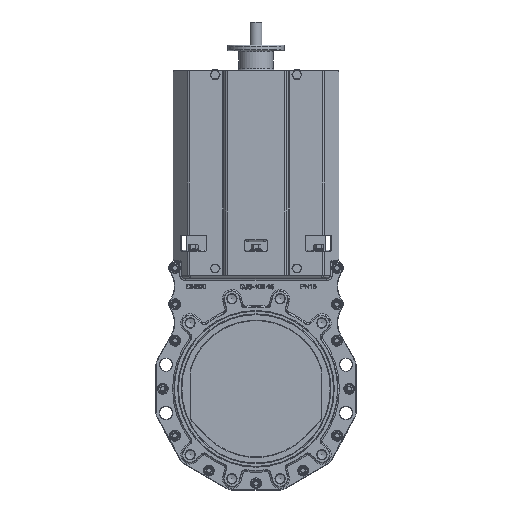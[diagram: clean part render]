
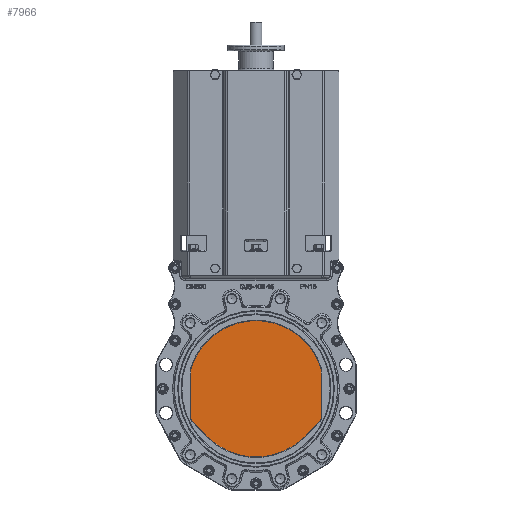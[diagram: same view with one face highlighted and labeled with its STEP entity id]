
A CAD part, top view. The second image highlights one B-rep face of the part: STEP entity #7966.
In plain terms, the highlighted planar face has unit normal (0, 0, 1).
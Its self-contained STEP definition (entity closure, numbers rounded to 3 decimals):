
#5312=CIRCLE('',#43407,10.);
#5313=CIRCLE('',#43409,150.);
#5314=CIRCLE('',#43411,10.);
#5316=CIRCLE('',#43415,10.);
#5318=CIRCLE('',#43419,150.);
#5320=CIRCLE('',#43423,10.);
#7966=ADVANCED_FACE('',(#11502),#9851,.T.);
#9851=PLANE('',#44365);
#11502=FACE_OUTER_BOUND('',#13886,.T.);
#13886=EDGE_LOOP('',(#21480,#21481,#21482,#21483,#21484,#21485,#21486,#21487,
#21488,#21489));
#21480=ORIENTED_EDGE('',*,*,#33020,.F.);
#21481=ORIENTED_EDGE('',*,*,#33023,.F.);
#21482=ORIENTED_EDGE('',*,*,#33025,.F.);
#21483=ORIENTED_EDGE('',*,*,#33028,.F.);
#21484=ORIENTED_EDGE('',*,*,#33031,.F.);
#21485=ORIENTED_EDGE('',*,*,#33034,.F.);
#21486=ORIENTED_EDGE('',*,*,#33037,.F.);
#21487=ORIENTED_EDGE('',*,*,#33040,.F.);
#21488=ORIENTED_EDGE('',*,*,#33043,.F.);
#21489=ORIENTED_EDGE('',*,*,#33045,.F.);
#28900=VERTEX_POINT('',#62581);
#28901=VERTEX_POINT('',#62583);
#28902=VERTEX_POINT('',#62587);
#28904=VERTEX_POINT('',#62592);
#28905=VERTEX_POINT('',#62597);
#28908=VERTEX_POINT('',#62604);
#28910=VERTEX_POINT('',#62610);
#28912=VERTEX_POINT('',#62616);
#28913=VERTEX_POINT('',#62621);
#28916=VERTEX_POINT('',#62628);
#33020=EDGE_CURVE('',#28900,#28901,#5312,.T.);
#33023=EDGE_CURVE('',#28902,#28900,#5313,.T.);
#33025=EDGE_CURVE('',#28904,#28902,#5314,.T.);
#33028=EDGE_CURVE('',#28905,#28904,#38169,.T.);
#33031=EDGE_CURVE('',#28908,#28905,#5316,.T.);
#33034=EDGE_CURVE('',#28910,#28908,#38173,.T.);
#33037=EDGE_CURVE('',#28912,#28910,#5318,.T.);
#33040=EDGE_CURVE('',#28913,#28912,#38177,.T.);
#33043=EDGE_CURVE('',#28916,#28913,#5320,.T.);
#33045=EDGE_CURVE('',#28901,#28916,#38180,.T.);
#38169=LINE('',#62599,#40667);
#38173=LINE('',#62611,#40671);
#38177=LINE('',#62623,#40675);
#38180=LINE('',#62632,#40678);
#40667=VECTOR('',#49180,1.);
#40671=VECTOR('',#49192,1.);
#40675=VECTOR('',#49204,1.);
#40678=VECTOR('',#49215,1.);
#43407=AXIS2_PLACEMENT_3D('',#62582,#49162,#49163);
#43409=AXIS2_PLACEMENT_3D('',#62588,#49168,#49169);
#43411=AXIS2_PLACEMENT_3D('',#62593,#49173,#49174);
#43415=AXIS2_PLACEMENT_3D('',#62605,#49185,#49186);
#43419=AXIS2_PLACEMENT_3D('',#62617,#49197,#49198);
#43423=AXIS2_PLACEMENT_3D('',#62629,#49209,#49210);
#44365=AXIS2_PLACEMENT_3D('',#69249,#51952,#51953);
#49162=DIRECTION('',(0.,0.,-1.));
#49163=DIRECTION('',(1.,0.,0.));
#49168=DIRECTION('',(0.,0.,-1.));
#49169=DIRECTION('',(1.,0.,0.));
#49173=DIRECTION('',(0.,0.,-1.));
#49174=DIRECTION('',(1.,0.,0.));
#49180=DIRECTION('',(0.,1.,0.));
#49185=DIRECTION('',(0.,0.,-1.));
#49186=DIRECTION('',(1.,0.,0.));
#49192=DIRECTION('',(-0.707,0.707,0.));
#49197=DIRECTION('',(0.,0.,-1.));
#49198=DIRECTION('',(1.,0.,0.));
#49204=DIRECTION('',(-0.707,-0.707,0.));
#49209=DIRECTION('',(0.,0.,-1.));
#49210=DIRECTION('',(1.,0.,0.));
#49215=DIRECTION('',(0.,-1.,0.));
#51952=DIRECTION('',(0.,0.,1.));
#51953=DIRECTION('',(1.,0.,0.));
#62581=CARTESIAN_POINT('',(142.5,46.837,6.));
#62582=CARTESIAN_POINT('',(133.,43.715,6.));
#62583=CARTESIAN_POINT('',(143.,43.715,6.));
#62587=CARTESIAN_POINT('',(-142.5,46.837,6.));
#62588=CARTESIAN_POINT('',(0.,0.,6.));
#62592=CARTESIAN_POINT('',(-143.,43.715,6.));
#62593=CARTESIAN_POINT('',(-133.,43.715,6.));
#62597=CARTESIAN_POINT('',(-143.,-64.99,6.));
#62599=CARTESIAN_POINT('',(-143.,45.288,6.));
#62604=CARTESIAN_POINT('',(-140.071,-72.061,6.));
#62605=CARTESIAN_POINT('',(-133.,-64.99,6.));
#62610=CARTESIAN_POINT('',(-106.066,-106.066,6.));
#62611=CARTESIAN_POINT('',(-143.,-69.132,6.));
#62616=CARTESIAN_POINT('',(106.066,-106.066,6.));
#62617=CARTESIAN_POINT('',(0.,0.,6.));
#62621=CARTESIAN_POINT('',(140.071,-72.061,6.));
#62623=CARTESIAN_POINT('',(106.066,-106.066,6.));
#62628=CARTESIAN_POINT('',(143.,-64.99,6.));
#62629=CARTESIAN_POINT('',(133.,-64.99,6.));
#62632=CARTESIAN_POINT('',(143.,-69.132,6.));
#69249=CARTESIAN_POINT('',(0.,131.073,6.));
